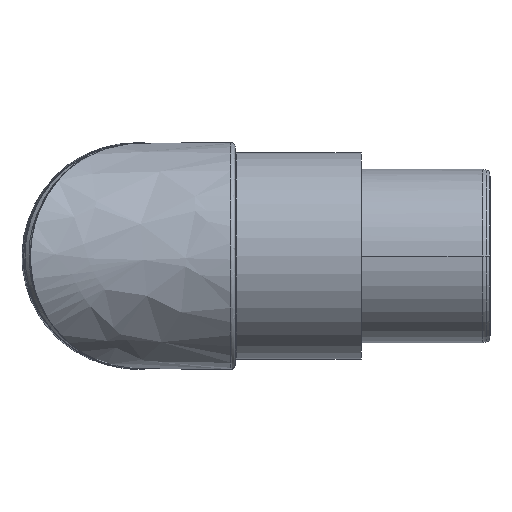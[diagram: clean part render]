
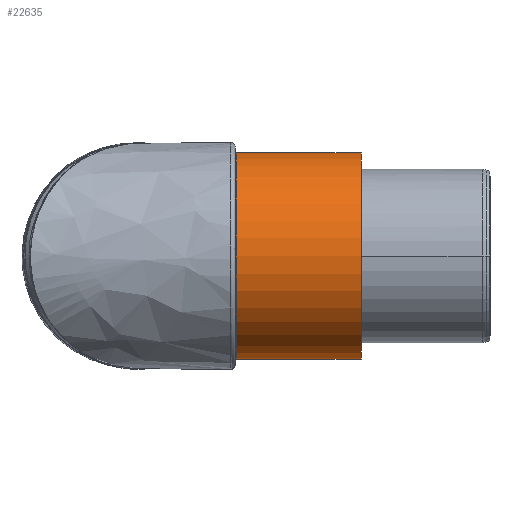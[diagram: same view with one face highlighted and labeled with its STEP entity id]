
A CAD part, left-side view. The second image highlights one B-rep face of the part: STEP entity #22635.
In plain terms, the highlighted cylindrical face has radius 37.7 mm (diameter 75.4 mm), a partial arc.
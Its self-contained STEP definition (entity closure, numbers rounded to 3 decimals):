
#132 = DIRECTION ( 'NONE',  ( 0., -1., 0. ) ) ;
#307 = VERTEX_POINT ( 'NONE', #31080 ) ;
#1298 = CARTESIAN_POINT ( 'NONE',  ( 0., 0., -37.7 ) ) ;
#3724 = CIRCLE ( 'NONE', #27130, 37.7 ) ;
#4274 = DIRECTION ( 'NONE',  ( 0., -1., 0. ) ) ;
#4480 = CARTESIAN_POINT ( 'NONE',  ( 0., 45.5, -37.7 ) ) ;
#6723 = CARTESIAN_POINT ( 'NONE',  ( 0., 0., 0. ) ) ;
#7852 = DIRECTION ( 'NONE',  ( 0., -1., 0. ) ) ;
#8074 = VERTEX_POINT ( 'NONE', #4480 ) ;
#8695 = CIRCLE ( 'NONE', #23658, 37.7 ) ;
#9974 = FACE_OUTER_BOUND ( 'NONE', #25536, .T. ) ;
#11168 = ORIENTED_EDGE ( 'NONE', *, *, #11989, .F. ) ;
#11795 = CARTESIAN_POINT ( 'NONE',  ( 0., 0., 0. ) ) ;
#11989 = EDGE_CURVE ( 'NONE', #17490, #307, #8695, .T. ) ;
#13177 = ORIENTED_EDGE ( 'NONE', *, *, #28614, .T. ) ;
#13373 = EDGE_CURVE ( 'NONE', #22484, #8074, #3724, .T. ) ;
#14246 = DIRECTION ( 'NONE',  ( 0., 0., -1. ) ) ;
#14649 = CARTESIAN_POINT ( 'NONE',  ( 0., 45.5, 0. ) ) ;
#16341 = DIRECTION ( 'NONE',  ( 0., 0., -1. ) ) ;
#17072 = DIRECTION ( 'NONE',  ( 0., 0., -1. ) ) ;
#17490 = VERTEX_POINT ( 'NONE', #19699 ) ;
#18258 = DIRECTION ( 'NONE',  ( 0., -1., 0. ) ) ;
#18969 = ORIENTED_EDGE ( 'NONE', *, *, #13373, .T. ) ;
#19699 = CARTESIAN_POINT ( 'NONE',  ( 0., 0., 37.7 ) ) ;
#20212 = ORIENTED_EDGE ( 'NONE', *, *, #27441, .F. ) ;
#20786 = LINE ( 'NONE', #27217, #26483 ) ;
#20801 = CARTESIAN_POINT ( 'NONE',  ( 0., 45.5, 37.7 ) ) ;
#22484 = VERTEX_POINT ( 'NONE', #20801 ) ;
#22635 = ADVANCED_FACE ( 'NONE', ( #9974 ), #28570, .T. ) ;
#23658 = AXIS2_PLACEMENT_3D ( 'NONE', #11795, #28758, #14246 ) ;
#25536 = EDGE_LOOP ( 'NONE', ( #20212, #18969, #13177, #11168 ) ) ;
#25706 = LINE ( 'NONE', #1298, #27232 ) ;
#26483 = VECTOR ( 'NONE', #7852, 1000. ) ;
#27130 = AXIS2_PLACEMENT_3D ( 'NONE', #14649, #132, #17072 ) ;
#27217 = CARTESIAN_POINT ( 'NONE',  ( 0., 0., 37.7 ) ) ;
#27232 = VECTOR ( 'NONE', #18258, 1000. ) ;
#27441 = EDGE_CURVE ( 'NONE', #22484, #17490, #20786, .T. ) ;
#28570 = CYLINDRICAL_SURFACE ( 'NONE', #29205, 37.7 ) ;
#28614 = EDGE_CURVE ( 'NONE', #8074, #307, #25706, .T. ) ;
#28758 = DIRECTION ( 'NONE',  ( 0., -1., 0. ) ) ;
#29205 = AXIS2_PLACEMENT_3D ( 'NONE', #6723, #4274, #16341 ) ;
#31080 = CARTESIAN_POINT ( 'NONE',  ( 0., 0., -37.7 ) ) ;
